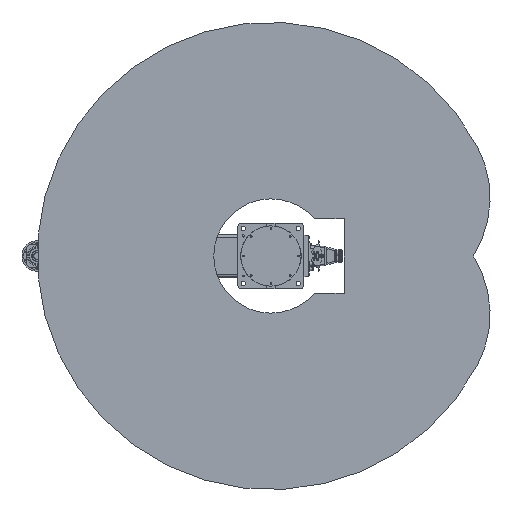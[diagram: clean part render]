
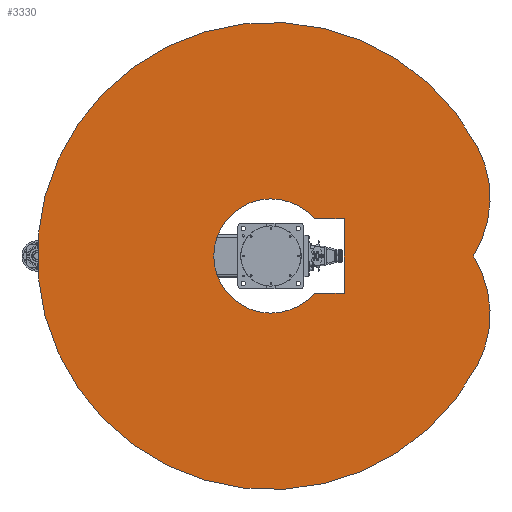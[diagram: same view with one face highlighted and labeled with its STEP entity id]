
A CAD part, front view. The second image highlights one B-rep face of the part: STEP entity #3330.
In plain terms, the highlighted planar face has unit normal (0, -1, 0).
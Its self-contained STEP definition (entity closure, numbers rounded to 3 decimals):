
#3330 = ADVANCED_FACE( '', ( #8760, #8761 ), #8762, .F. );
#8760 = FACE_BOUND( '', #17206, .T. );
#8761 = FACE_OUTER_BOUND( '', #17207, .T. );
#8762 = PLANE( '', #17208 );
#17206 = EDGE_LOOP( '', ( #28269, #28270, #28271, #28272 ) );
#17207 = EDGE_LOOP( '', ( #28273, #28274, #28275 ) );
#17208 = AXIS2_PLACEMENT_3D( '', #28276, #28277, #28278 );
#28269 = ORIENTED_EDGE( '', *, *, #47118, .T. );
#28270 = ORIENTED_EDGE( '', *, *, #47119, .T. );
#28271 = ORIENTED_EDGE( '', *, *, #47120, .T. );
#28272 = ORIENTED_EDGE( '', *, *, #47121, .T. );
#28273 = ORIENTED_EDGE( '', *, *, #47122, .F. );
#28274 = ORIENTED_EDGE( '', *, *, #47123, .F. );
#28275 = ORIENTED_EDGE( '', *, *, #47124, .F. );
#28276 = CARTESIAN_POINT( '', ( 105.631, 0., 198.663 ) );
#28277 = DIRECTION( '', ( 0., 1., 0. ) );
#28278 = DIRECTION( '', ( 0., 0., 1. ) );
#47118 = EDGE_CURVE( '', #56294, #56295, #56296, .T. );
#47119 = EDGE_CURVE( '', #56295, #56297, #56298, .T. );
#47120 = EDGE_CURVE( '', #56297, #56299, #56300, .T. );
#47121 = EDGE_CURVE( '', #56299, #56294, #56301, .T. );
#47122 = EDGE_CURVE( '', #56302, #56303, #56304, .T. );
#47123 = EDGE_CURVE( '', #56305, #56302, #56306, .T. );
#47124 = EDGE_CURVE( '', #56303, #56305, #56307, .T. );
#56294 = VERTEX_POINT( '', #70383 );
#56295 = VERTEX_POINT( '', #70384 );
#56296 = LINE( '', #70385, #70386 );
#56297 = VERTEX_POINT( '', #70387 );
#56298 = CIRCLE( '', #70388, 207.8 );
#56299 = VERTEX_POINT( '', #70389 );
#56300 = LINE( '', #70390, #70391 );
#56301 = LINE( '', #70392, #70393 );
#56302 = VERTEX_POINT( '', #70394 );
#56303 = VERTEX_POINT( '', #70395 );
#56304 = CIRCLE( '', #70396, 400. );
#56305 = VERTEX_POINT( '', #70397 );
#56306 = CIRCLE( '', #70398, 400. );
#56307 = CIRCLE( '', #70399, 850. );
#70383 = CARTESIAN_POINT( '', ( 135., 0., 267. ) );
#70384 = CARTESIAN_POINT( '', ( 135., 0., 157.974 ) );
#70385 = CARTESIAN_POINT( '', ( 135., 0., 267. ) );
#70386 = VECTOR( '', #86157, 1000. );
#70387 = CARTESIAN_POINT( '', ( -135., 0., 157.974 ) );
#70388 = AXIS2_PLACEMENT_3D( '', #86158, #86159, #86160 );
#70389 = CARTESIAN_POINT( '', ( -135., 0., 267. ) );
#70390 = CARTESIAN_POINT( '', ( -135., 0., 157.974 ) );
#70391 = VECTOR( '', #86161, 1000. );
#70392 = CARTESIAN_POINT( '', ( -135., 0., 267. ) );
#70393 = VECTOR( '', #86162, 1000. );
#70394 = CARTESIAN_POINT( '', ( 0., 0., 736.985 ) );
#70395 = CARTESIAN_POINT( '', ( 399.051, 0., 750.505 ) );
#70396 = AXIS2_PLACEMENT_3D( '', #86163, #86164, #86165 );
#70397 = CARTESIAN_POINT( '', ( -399.051, 0., 750.505 ) );
#70398 = AXIS2_PLACEMENT_3D( '', #86166, #86167, #86168 );
#70399 = AXIS2_PLACEMENT_3D( '', #86169, #86170, #86171 );
#86157 = DIRECTION( '', ( 0., 0., -1. ) );
#86158 = CARTESIAN_POINT( '', ( 0., 0., 0. ) );
#86159 = DIRECTION( '', ( 0., 1., 0. ) );
#86160 = DIRECTION( '', ( 1., 0., 0. ) );
#86161 = DIRECTION( '', ( 0., 0., 1. ) );
#86162 = DIRECTION( '', ( 1., 0., 0. ) );
#86163 = CARTESIAN_POINT( '', ( 211.262, 0., 397.326 ) );
#86164 = DIRECTION( '', ( 0., 1., 0. ) );
#86165 = DIRECTION( '', ( 1., 0., 0. ) );
#86166 = CARTESIAN_POINT( '', ( -211.262, 0., 397.326 ) );
#86167 = DIRECTION( '', ( 0., 1., 0. ) );
#86168 = DIRECTION( '', ( 1., 0., 0. ) );
#86169 = CARTESIAN_POINT( '', ( 0., 0., 0. ) );
#86170 = DIRECTION( '', ( 0., 1., 0. ) );
#86171 = DIRECTION( '', ( 1., 0., 0. ) );
